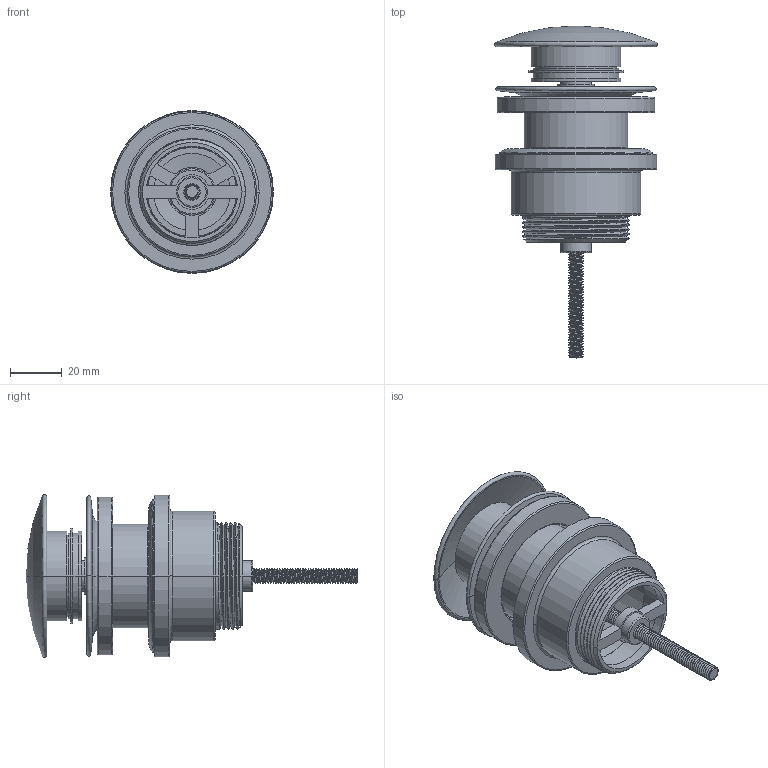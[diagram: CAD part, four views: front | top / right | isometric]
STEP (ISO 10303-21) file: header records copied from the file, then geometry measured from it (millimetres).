
FILE_DESCRIPTION((''),'2;1');
FILE_NAME('PT-SS07_ASM','2025-03-31T14:23:37',('S'),(''),'CREO PARAMETRIC BY PTC INC, 2021023','CREO PARAMETRIC BY PTC INC, 2021023','');
FILE_SCHEMA(('AUTOMOTIVE_DESIGN { 1 0 10303 214 1 1 1 1 }'));
Length unit declared in the file: millimetre
Products named in the file (9): 317-002800-131-01; 317-002800-131-02_AF0; 317-002800-131-03; 317-002800-131-04; 317-002800-131-05; 317-002800-131-06; 317-002800-131-07; 317-002800-131-08; PT-SS07_ASM
Assembly tree (8 placements, depth 2):
  PT-SS07_ASM
    317-002800-131-01
    317-002800-131-02_AF0
    317-002800-131-03
    317-002800-131-04
    317-002800-131-05
    317-002800-131-06
    317-002800-131-07
    317-002800-131-08
Bounding box: 63 x 128.5 x 63 mm (x, y, z)
Volume: 58077.8 mm3; surface area: 55242.6 mm2
Topology: 8 solids, 8 shells, 458 faces, 1171 edges, 744 vertices
Faces by surface type: cylinder 165, bspline 85, plane 82, torus 69, cone 29, sphere 28
Entity records: 32902 total; most frequent: CARTESIAN_POINT 20578, ORIENTED_EDGE 2330, DIRECTION 2072, EDGE_CURVE 1165, AXIS2_PLACEMENT_3D 877, VERTEX_POINT 743, EDGE_LOOP 498, CIRCLE 487
